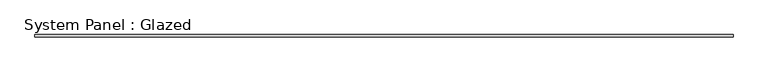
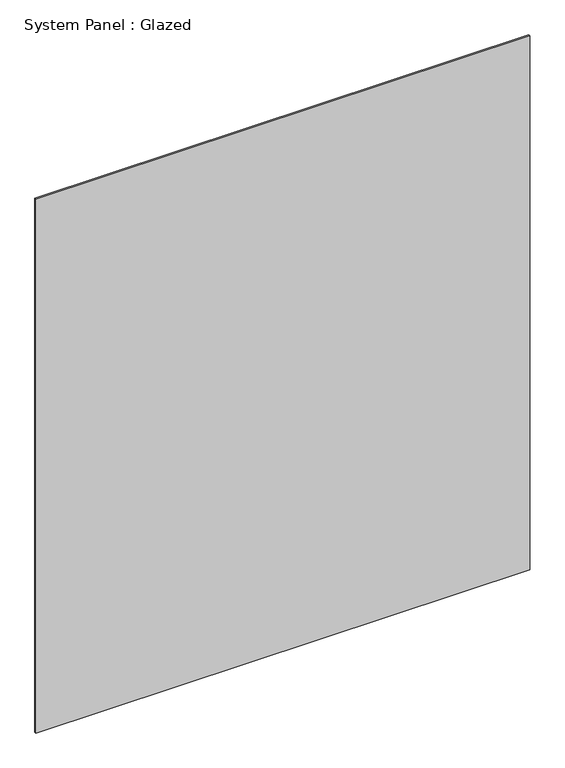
"""IFC4 building model written with IfcOpenShell, lengths in millimetres: plate geometry, System Panel : Glazed."""

from ifc_helpers import new_model, si_unit, origin, origin_with_axes, place, context, project, spatial, polyline, outline, extrude, source, transform, mapped, element, save


def system_panel_glazed_2d9724c8(model_context):
    return source(origin(), model_context, "Body", "SweptSolid", [
        extrude(outline(polyline([(3500.0, 24.5), (-3500.0, 24.5), (-3500.0, 49.5), (3500.0, 49.5), (3500.0, 24.5)])), origin_with_axes(), (0.0, 0.0, 1.0), 8000.0),
    ])


if __name__ == "__main__":
    model = new_model("IFC4")
    model_context = context("Model", 3, world=origin())
    ifc_project = project(units=[si_unit("LENGTHUNIT", "METRE", prefix="MILLI")], contexts=[model_context])
    site = spatial("IfcSite", under=ifc_project)
    building = spatial("IfcBuilding", under=site)
    placement = place(None, origin())
    system_panel_glazed_shape = system_panel_glazed_2d9724c8(model_context)
    element("IfcPlate", 1, ObjectType="System Panel : Glazed", at=placement, inside=building, context=model_context, shape_type="MappedRepresentation", body=[
        mapped(system_panel_glazed_shape, transform((0.0, 0.0, 0.0), x_axis=(1.0, 0.0, 0.0), y_axis=(0.0, 1.0, 0.0), z_axis=(0.0, 0.0, 1.0))),
    ])
    save(model, "model.ifc")
